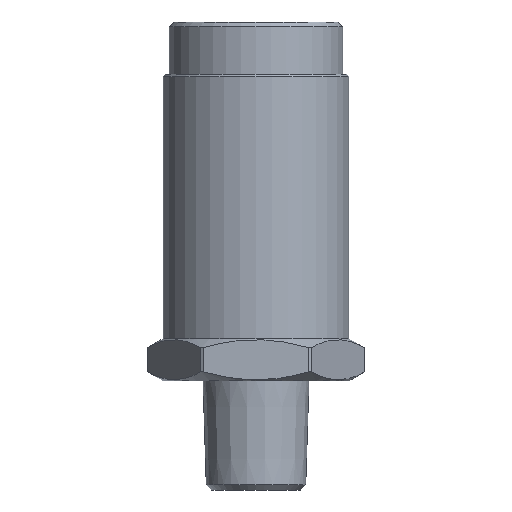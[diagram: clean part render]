
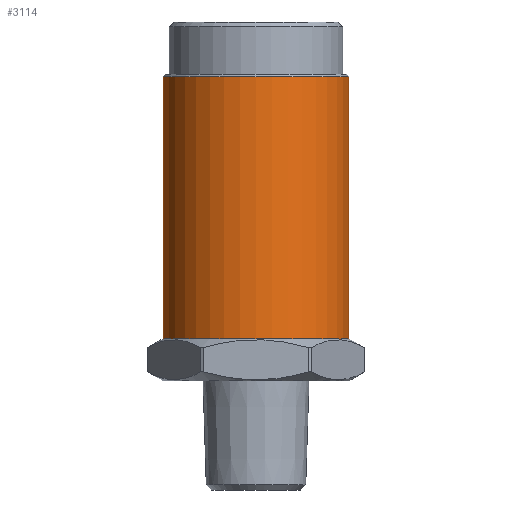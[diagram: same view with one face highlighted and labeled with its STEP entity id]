
A CAD part, front view. The second image highlights one B-rep face of the part: STEP entity #3114.
In plain terms, the highlighted cylindrical face has radius 18.7 mm (diameter 37.4 mm), a full revolution.
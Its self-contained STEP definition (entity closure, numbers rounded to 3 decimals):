
#470=CYLINDRICAL_SURFACE('',#3489,18.7);
#536=FACE_BOUND('',#987,.T.);
#744=FACE_OUTER_BOUND('',#986,.T.);
#986=EDGE_LOOP('',(#2629));
#987=EDGE_LOOP('',(#2630));
#1191=CIRCLE('',#3490,18.7);
#1192=CIRCLE('',#3491,18.7);
#1479=VERTEX_POINT('',#5649);
#1480=VERTEX_POINT('',#5651);
#1877=EDGE_CURVE('',#1479,#1479,#1191,.T.);
#1878=EDGE_CURVE('',#1480,#1480,#1192,.T.);
#2629=ORIENTED_EDGE('',*,*,#1877,.F.);
#2630=ORIENTED_EDGE('',*,*,#1878,.F.);
#3114=ADVANCED_FACE('',(#744,#536),#470,.T.);
#3489=AXIS2_PLACEMENT_3D('',#5648,#4335,#4336);
#3490=AXIS2_PLACEMENT_3D('',#5650,#4337,#4338);
#3491=AXIS2_PLACEMENT_3D('',#5652,#4339,#4340);
#4335=DIRECTION('center_axis',(0.,0.,1.));
#4336=DIRECTION('ref_axis',(1.,0.,0.));
#4337=DIRECTION('center_axis',(0.,0.,-1.));
#4338=DIRECTION('ref_axis',(-1.,0.,0.));
#4339=DIRECTION('center_axis',(0.,0.,1.));
#4340=DIRECTION('ref_axis',(1.,0.,0.));
#5648=CARTESIAN_POINT('Origin',(2.757,6.203,47.075));
#5649=CARTESIAN_POINT('',(-15.943,6.203,-16.625));
#5650=CARTESIAN_POINT('Origin',(2.757,6.203,-16.625));
#5651=CARTESIAN_POINT('',(-15.943,6.203,36.075));
#5652=CARTESIAN_POINT('Origin',(2.757,6.203,36.075));
